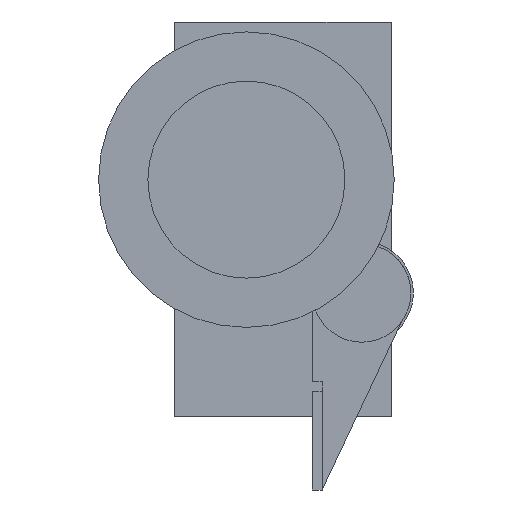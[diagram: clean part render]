
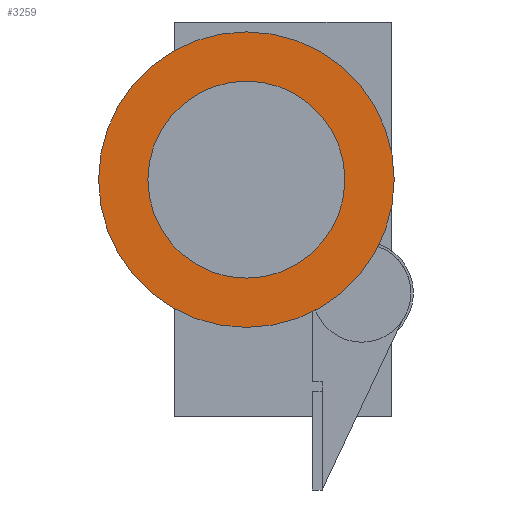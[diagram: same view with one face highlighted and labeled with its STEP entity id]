
A CAD part, left-side view. The second image highlights one B-rep face of the part: STEP entity #3259.
In plain terms, the highlighted planar face has unit normal (-1, 0, 0).
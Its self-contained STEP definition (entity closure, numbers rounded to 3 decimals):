
#59 = VERTEX_POINT ( 'NONE', #2760 ) ;
#220 = DIRECTION ( 'NONE',  ( 0., 0., 1. ) ) ;
#385 = AXIS2_PLACEMENT_3D ( 'NONE', #2675, #2115, #220 ) ;
#497 = AXIS2_PLACEMENT_3D ( 'NONE', #3156, #2311, #3469 ) ;
#519 = EDGE_CURVE ( 'NONE', #3277, #59, #868, .T. ) ;
#673 = CARTESIAN_POINT ( 'NONE',  ( -58.5, 3.7, 4. ) ) ;
#852 = CIRCLE ( 'NONE', #497, 15. ) ;
#868 = CIRCLE ( 'NONE', #1019, 15. ) ;
#1019 = AXIS2_PLACEMENT_3D ( 'NONE', #673, #3186, #2314 ) ;
#1319 = FACE_OUTER_BOUND ( 'NONE', #2827, .T. ) ;
#2105 = CARTESIAN_POINT ( 'NONE',  ( -58.5, 3.7, 19. ) ) ;
#2115 = DIRECTION ( 'NONE',  ( -1., 0., 0. ) ) ;
#2311 = DIRECTION ( 'NONE',  ( 1., 0., 0. ) ) ;
#2314 = DIRECTION ( 'NONE',  ( 0., 0., -1. ) ) ;
#2675 = CARTESIAN_POINT ( 'NONE',  ( -58.5, 3.7, 4. ) ) ;
#2723 = ORIENTED_EDGE ( 'NONE', *, *, #3159, .F. ) ;
#2760 = CARTESIAN_POINT ( 'NONE',  ( -58.5, 3.7, -11. ) ) ;
#2827 = EDGE_LOOP ( 'NONE', ( #2723, #3353 ) ) ;
#2964 = PLANE ( 'NONE',  #385 ) ;
#3156 = CARTESIAN_POINT ( 'NONE',  ( -58.5, 3.7, 4. ) ) ;
#3159 = EDGE_CURVE ( 'NONE', #59, #3277, #852, .T. ) ;
#3186 = DIRECTION ( 'NONE',  ( 1., 0., 0. ) ) ;
#3259 = ADVANCED_FACE ( 'NONE', ( #1319 ), #2964, .T. ) ;
#3277 = VERTEX_POINT ( 'NONE', #2105 ) ;
#3353 = ORIENTED_EDGE ( 'NONE', *, *, #519, .F. ) ;
#3469 = DIRECTION ( 'NONE',  ( 0., 0., -1. ) ) ;
